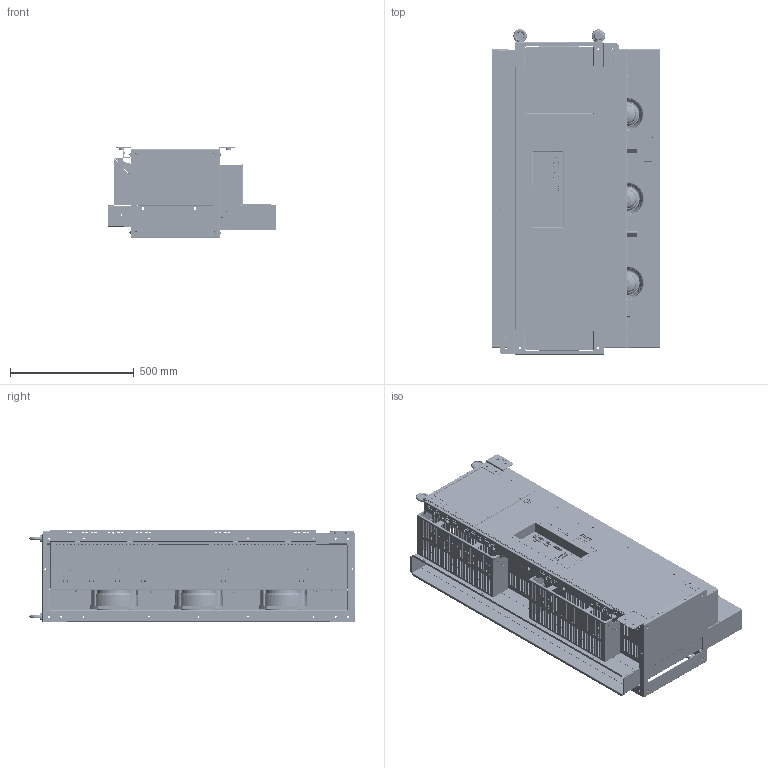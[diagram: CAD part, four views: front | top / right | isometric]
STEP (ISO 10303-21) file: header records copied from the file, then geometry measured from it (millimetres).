
FILE_DESCRIPTION (( 'STEP AP214' ), '1' );
FILE_NAME ('0369175DF0000.STEP', '2022-06-17T06:39:28', ( '' ), ( '' ), 'SwSTEP 2.0', 'SolidWorks 2021', '' );
FILE_SCHEMA (( 'AUTOMOTIVE_DESIGN' ));
Length unit declared in the file: millimetre
Products named in the file (1): 0369175DF0000
Bounding box: 684 x 1317 x 374.3 mm (x, y, z)
Surface area: 8989637.7 mm2 (no closed solid volume)
Topology: 0 solids, 129 shells, 17782 faces, 47725 edges, 30411 vertices
Faces by surface type: plane 8981, cylinder 4846, bspline 2875, cone 896, sphere 102, torus 82
Entity records: 894057 total; most frequent: CARTESIAN_POINT 270240, ORIENTED_EDGE 94816, DIRECTION 79937, EDGE_CURVE 47426, VERTEX_POINT 30408, VECTOR 28389, LINE 28389, AXIS2_PLACEMENT_3D 25774
